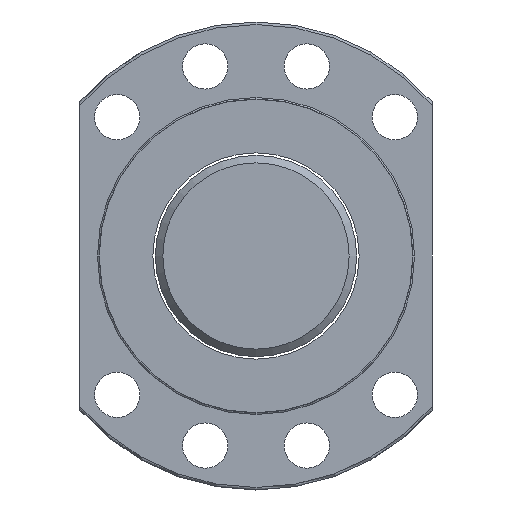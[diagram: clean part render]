
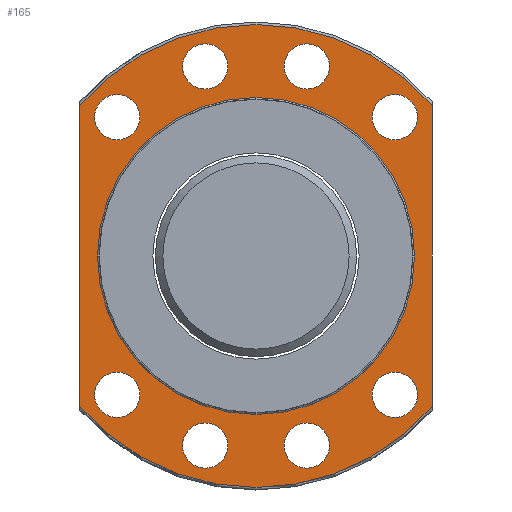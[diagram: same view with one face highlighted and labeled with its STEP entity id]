
A CAD part, left-side view. The second image highlights one B-rep face of the part: STEP entity #165.
In plain terms, the highlighted planar face has unit normal (-1, 0, 0).
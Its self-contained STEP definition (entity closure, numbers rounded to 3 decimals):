
#108=LINE('',#942,#116);
#109=LINE('',#946,#117);
#116=VECTOR('',#785,1.);
#117=VECTOR('',#788,1.);
#165=ADVANCED_FACE('',(#237,#238,#239,#240,#241,#242,#243,#244,#245,#209),
#195,.T.);
#195=PLANE('',#669);
#209=FACE_OUTER_BOUND('',#314,.T.);
#237=FACE_BOUND('',#305,.T.);
#238=FACE_BOUND('',#306,.T.);
#239=FACE_BOUND('',#307,.T.);
#240=FACE_BOUND('',#308,.T.);
#241=FACE_BOUND('',#309,.T.);
#242=FACE_BOUND('',#310,.T.);
#243=FACE_BOUND('',#311,.T.);
#244=FACE_BOUND('',#312,.T.);
#245=FACE_BOUND('',#313,.T.);
#305=EDGE_LOOP('',(#385));
#306=EDGE_LOOP('',(#386));
#307=EDGE_LOOP('',(#387));
#308=EDGE_LOOP('',(#388));
#309=EDGE_LOOP('',(#389));
#310=EDGE_LOOP('',(#390));
#311=EDGE_LOOP('',(#391));
#312=EDGE_LOOP('',(#392));
#313=EDGE_LOOP('',(#393));
#314=EDGE_LOOP('',(#394,#395,#396,#397));
#385=ORIENTED_EDGE('',*,*,#542,.T.);
#386=ORIENTED_EDGE('',*,*,#543,.F.);
#387=ORIENTED_EDGE('',*,*,#544,.F.);
#388=ORIENTED_EDGE('',*,*,#545,.F.);
#389=ORIENTED_EDGE('',*,*,#546,.F.);
#390=ORIENTED_EDGE('',*,*,#547,.F.);
#391=ORIENTED_EDGE('',*,*,#548,.F.);
#392=ORIENTED_EDGE('',*,*,#549,.F.);
#393=ORIENTED_EDGE('',*,*,#550,.F.);
#394=ORIENTED_EDGE('',*,*,#551,.F.);
#395=ORIENTED_EDGE('',*,*,#552,.T.);
#396=ORIENTED_EDGE('',*,*,#553,.F.);
#397=ORIENTED_EDGE('',*,*,#554,.F.);
#491=VERTEX_POINT('',#922);
#492=VERTEX_POINT('',#924);
#493=VERTEX_POINT('',#926);
#494=VERTEX_POINT('',#928);
#495=VERTEX_POINT('',#930);
#496=VERTEX_POINT('',#932);
#497=VERTEX_POINT('',#934);
#498=VERTEX_POINT('',#936);
#499=VERTEX_POINT('',#938);
#500=VERTEX_POINT('',#940);
#501=VERTEX_POINT('',#941);
#502=VERTEX_POINT('',#943);
#503=VERTEX_POINT('',#945);
#542=EDGE_CURVE('',#491,#491,#601,.T.);
#543=EDGE_CURVE('',#492,#492,#602,.T.);
#544=EDGE_CURVE('',#493,#493,#603,.T.);
#545=EDGE_CURVE('',#494,#494,#604,.T.);
#546=EDGE_CURVE('',#495,#495,#605,.T.);
#547=EDGE_CURVE('',#496,#496,#606,.T.);
#548=EDGE_CURVE('',#497,#497,#607,.T.);
#549=EDGE_CURVE('',#498,#498,#608,.T.);
#550=EDGE_CURVE('',#499,#499,#609,.T.);
#551=EDGE_CURVE('',#500,#501,#610,.T.);
#552=EDGE_CURVE('',#500,#502,#108,.T.);
#553=EDGE_CURVE('',#503,#502,#611,.T.);
#554=EDGE_CURVE('',#501,#503,#109,.T.);
#601=CIRCLE('',#658,31.5);
#602=CIRCLE('',#659,4.5);
#603=CIRCLE('',#660,4.5);
#604=CIRCLE('',#661,4.5);
#605=CIRCLE('',#662,4.5);
#606=CIRCLE('',#663,4.5);
#607=CIRCLE('',#664,4.5);
#608=CIRCLE('',#665,4.5);
#609=CIRCLE('',#666,4.5);
#610=CIRCLE('',#667,46.);
#611=CIRCLE('',#668,46.);
#658=AXIS2_PLACEMENT_3D('',#921,#765,#766);
#659=AXIS2_PLACEMENT_3D('',#923,#767,#768);
#660=AXIS2_PLACEMENT_3D('',#925,#769,#770);
#661=AXIS2_PLACEMENT_3D('',#927,#771,#772);
#662=AXIS2_PLACEMENT_3D('',#929,#773,#774);
#663=AXIS2_PLACEMENT_3D('',#931,#775,#776);
#664=AXIS2_PLACEMENT_3D('',#933,#777,#778);
#665=AXIS2_PLACEMENT_3D('',#935,#779,#780);
#666=AXIS2_PLACEMENT_3D('',#937,#781,#782);
#667=AXIS2_PLACEMENT_3D('',#939,#783,#784);
#668=AXIS2_PLACEMENT_3D('',#944,#786,#787);
#669=AXIS2_PLACEMENT_3D('',#947,#789,#790);
#765=DIRECTION('',(1.,0.,0.));
#766=DIRECTION('',(0.,1.,0.));
#767=DIRECTION('',(-1.,0.,0.));
#768=DIRECTION('',(0.,-1.,0.));
#769=DIRECTION('',(-1.,0.,0.));
#770=DIRECTION('',(0.,-1.,0.));
#771=DIRECTION('',(-1.,0.,0.));
#772=DIRECTION('',(0.,-1.,0.));
#773=DIRECTION('',(-1.,0.,0.));
#774=DIRECTION('',(0.,-1.,0.));
#775=DIRECTION('',(-1.,0.,0.));
#776=DIRECTION('',(0.,-1.,0.));
#777=DIRECTION('',(-1.,0.,0.));
#778=DIRECTION('',(0.,-1.,0.));
#779=DIRECTION('',(-1.,0.,0.));
#780=DIRECTION('',(0.,-1.,0.));
#781=DIRECTION('',(-1.,0.,0.));
#782=DIRECTION('',(0.,-1.,0.));
#783=DIRECTION('',(1.,0.,0.));
#784=DIRECTION('',(0.,1.,0.));
#785=DIRECTION('',(0.,0.,-1.));
#786=DIRECTION('',(1.,0.,0.));
#787=DIRECTION('',(0.,1.,0.));
#788=DIRECTION('',(0.,0.,-1.));
#789=DIRECTION('',(-1.,0.,0.));
#790=DIRECTION('',(0.,-1.,0.));
#921=CARTESIAN_POINT('',(-16.19,0.,0.));
#922=CARTESIAN_POINT('',(-16.19,31.5,0.));
#923=CARTESIAN_POINT('',(-16.19,10.094,37.671));
#924=CARTESIAN_POINT('',(-16.19,5.594,37.671));
#925=CARTESIAN_POINT('',(-16.19,-10.094,37.671));
#926=CARTESIAN_POINT('',(-16.19,-14.594,37.671));
#927=CARTESIAN_POINT('',(-16.19,-10.094,-37.671));
#928=CARTESIAN_POINT('',(-16.19,-14.594,-37.671));
#929=CARTESIAN_POINT('',(-16.19,10.094,-37.671));
#930=CARTESIAN_POINT('',(-16.19,5.594,-37.671));
#931=CARTESIAN_POINT('',(-16.19,-27.577,-27.577));
#932=CARTESIAN_POINT('',(-16.19,-32.077,-27.577));
#933=CARTESIAN_POINT('',(-16.19,27.577,-27.577));
#934=CARTESIAN_POINT('',(-16.19,23.077,-27.577));
#935=CARTESIAN_POINT('',(-16.19,-27.577,27.577));
#936=CARTESIAN_POINT('',(-16.19,-32.077,27.577));
#937=CARTESIAN_POINT('',(-16.19,27.577,27.577));
#938=CARTESIAN_POINT('',(-16.19,23.077,27.577));
#939=CARTESIAN_POINT('',(-16.19,0.,0.));
#940=CARTESIAN_POINT('',(-16.19,35.,29.85));
#941=CARTESIAN_POINT('',(-16.19,-35.,29.85));
#942=CARTESIAN_POINT('',(-16.19,35.,0.));
#943=CARTESIAN_POINT('',(-16.19,35.,-29.85));
#944=CARTESIAN_POINT('',(-16.19,0.,0.));
#945=CARTESIAN_POINT('',(-16.19,-35.,-29.85));
#946=CARTESIAN_POINT('',(-16.19,-35.,0.));
#947=CARTESIAN_POINT('',(-16.19,38.75,0.));
